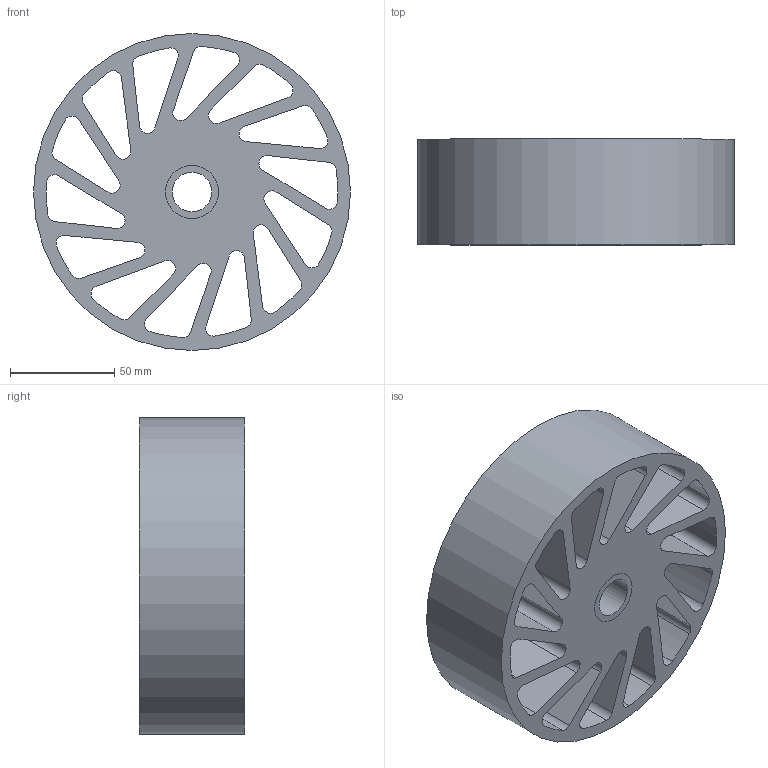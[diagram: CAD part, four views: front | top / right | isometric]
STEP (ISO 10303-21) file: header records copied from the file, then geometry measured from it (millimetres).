
FILE_DESCRIPTION(/* description */ (''),/* implementation_level */ '2;1');
FILE_NAME(/* name */ 'C:\Users\Owner\Desktop\Meridian Stuff\Oilite\NCWOB-620-XXX.stp',/* time_stamp */ '2023-05-22T17:21:19-05:00',/* author */ ('ASG'),/* organization */ ('Meridian Laboratory '),/* preprocessor_version */ 'ST-DEVELOPER v19',/* originating_system */ 'Autodesk Inventor 2023',/* authorisation */ '');
FILE_SCHEMA (('AUTOMOTIVE_DESIGN { 1 0 10303 214 3 1 1 }'));
Length unit declared in the file: inch
Products named in the file (1): NCWOB-540-XXX
Bounding box: 152.4 x 50.8 x 152.4 mm (x, y, z)
Volume: 505045 mm3; surface area: 129164.3 mm2
Topology: 2 solids, 2 shells, 92 faces, 264 edges, 176 vertices
Faces by surface type: cylinder 60, plane 32
Full cylindrical faces by diameter (mm): 19.101 x1, 25.4 x2, 152.4 x1
Entity records: 3285 total; most frequent: DIRECTION 570, CARTESIAN_POINT 533, ORIENTED_EDGE 528, EDGE_CURVE 264, AXIS2_PLACEMENT_3D 213, VERTEX_POINT 176, LINE 144, VECTOR 144
